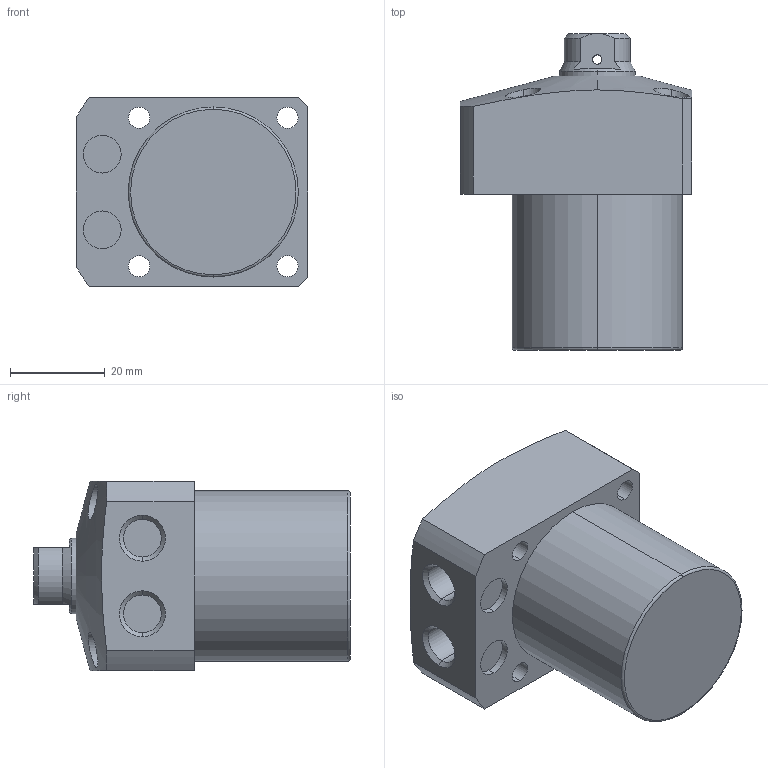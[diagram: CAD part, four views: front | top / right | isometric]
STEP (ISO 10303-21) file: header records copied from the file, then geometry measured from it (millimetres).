
FILE_DESCRIPTION (( 'STEP AP203' ), '1' );
FILE_NAME ('CLL-036CB-025.STEP', '2020-01-03T12:34:53', ( '' ), ( '' ), 'SwSTEP 2.0', 'SolidWorks 2015', '' );
FILE_SCHEMA (( 'CONFIG_CONTROL_DESIGN' ));
Length unit declared in the file: millimetre
Products named in the file (1): CLL-036CB-025
Bounding box: 49 x 67 x 40 mm (x, y, z)
Volume: 75010.1 mm3; surface area: 13940.3 mm2
Topology: 1 solids, 1 shells, 76 faces, 184 edges, 117 vertices
Faces by surface type: cylinder 38, plane 22, cone 14, torus 2
Entity records: 2699 total; most frequent: CARTESIAN_POINT 814, DIRECTION 386, ORIENTED_EDGE 364, EDGE_CURVE 182, AXIS2_PLACEMENT_3D 159, VERTEX_POINT 117, EDGE_LOOP 97, CIRCLE 82
